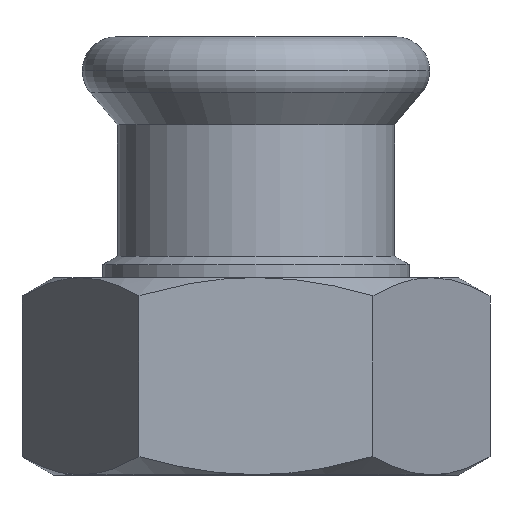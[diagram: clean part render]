
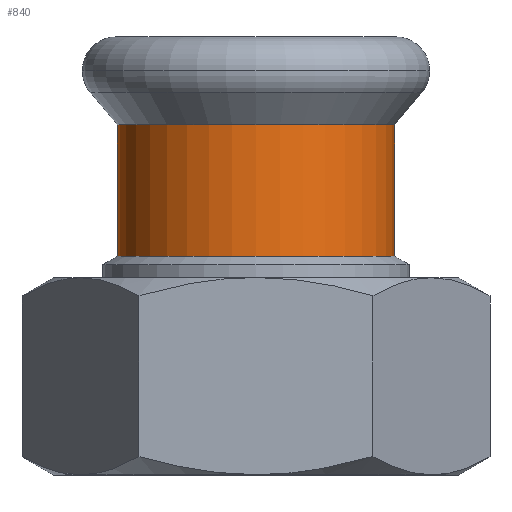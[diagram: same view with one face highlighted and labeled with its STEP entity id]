
A CAD part, top view. The second image highlights one B-rep face of the part: STEP entity #840.
In plain terms, the highlighted cylindrical face has radius 12.65 mm (diameter 25.3 mm), a partial arc.
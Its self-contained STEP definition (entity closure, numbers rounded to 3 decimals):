
#430=CARTESIAN_POINT('',(-319.291,50.141,0.));
#440=DIRECTION('',(0.,-1.,0.));
#450=DIRECTION('',(-1.,0.,0.));
#460=AXIS2_PLACEMENT_3D('',#430,#440,#450);
#470=CYLINDRICAL_SURFACE('',#460,12.65);
#480=CARTESIAN_POINT('',(-331.941,50.141,0.));
#490=DIRECTION('',(0.,-1.,0.));
#500=VECTOR('',#490,1.);
#510=LINE('',#480,#500);
#520=CARTESIAN_POINT('',(-331.941,56.893,0.));
#530=VERTEX_POINT('',#520);
#540=CARTESIAN_POINT('',(-331.941,44.906,0.));
#550=VERTEX_POINT('',#540);
#560=EDGE_CURVE('',#530,#550,#510,.T.);
#570=ORIENTED_EDGE('',*,*,#560,.T.);
#580=CARTESIAN_POINT('',(-319.291,56.893,0.));
#590=DIRECTION('',(0.,1.,0.));
#600=DIRECTION('',(-1.,0.,0.));
#610=AXIS2_PLACEMENT_3D('',#580,#590,#600);
#620=CIRCLE('',#610,12.65);
#630=CARTESIAN_POINT('',(-306.641,56.893,
0.));
#640=VERTEX_POINT('',#630);
#650=EDGE_CURVE('',#530,#640,#620,.T.);
#660=ORIENTED_EDGE('',*,*,#650,.F.);
#670=CARTESIAN_POINT('',(-306.641,50.141,
0.));
#680=DIRECTION('',(0.,-1.,0.));
#690=VECTOR('',#680,1.);
#700=LINE('',#670,#690);
#710=CARTESIAN_POINT('',(-306.641,44.906,
0.));
#720=VERTEX_POINT('',#710);
#730=EDGE_CURVE('',#640,#720,#700,.T.);
#740=ORIENTED_EDGE('',*,*,#730,.F.);
#750=CARTESIAN_POINT('',(-319.291,44.906,0.));
#760=DIRECTION('',(0.,-1.,0.));
#770=DIRECTION('',(-1.,0.,0.));
#780=AXIS2_PLACEMENT_3D('',#750,#760,#770);
#790=CIRCLE('',#780,12.65);
#800=EDGE_CURVE('',#720,#550,#790,.T.);
#810=ORIENTED_EDGE('',*,*,#800,.F.);
#820=EDGE_LOOP('',(#810,#740,#660,#570));
#830=FACE_OUTER_BOUND('',#820,.T.);
#840=ADVANCED_FACE('',(#830),#470,.T.);
